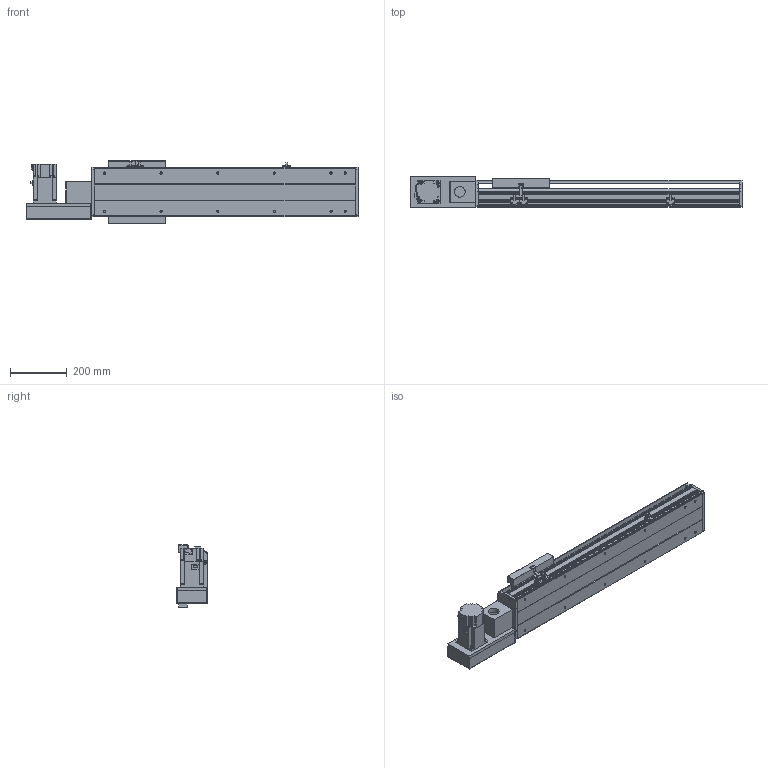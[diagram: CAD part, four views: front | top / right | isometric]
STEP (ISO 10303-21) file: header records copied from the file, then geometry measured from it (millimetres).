
FILE_DESCRIPTION(/* description */ ('STEP AP214'),/* implementation_level */ '2;1');
FILE_NAME(/* name */ 'PBS200-P40-S550-L-T75-C1-N(0)',/* time_stamp */ '2022-06-11T07:48:06+02:00',/* author */ ('License CC BY-ND 4.0'),/* organization */ ('CADENAS'),/* preprocessor_version */ 'ST-DEVELOPER v18.102',/* originating_system */ 'PARTsolutions',/* authorisation */ ' ');
FILE_SCHEMA (('AUTOMOTIVE_DESIGN {1 0 10303 214 3 1 1}'));
Length unit declared in the file: millimetre
Products named in the file (7): PBS200-P40-S550-L-T75-C1-N(0); PBS200_sensor; PBS200_plant; PBS200_sliser; T75-p1; PBS200T-L_motors; PBS200-S550()_body
Assembly tree (8 placements, depth 2):
  PBS200-P40-S550-L-T75-C1-N(0)
    PBS200_sensor  x3
    PBS200_plant
    PBS200_sliser
    T75-p1
    PBS200T-L_motors
    PBS200-S550()_body
Bounding box: 1172 x 109 x 221 mm (x, y, z)
Volume: 8426883.4 mm3; surface area: 1376747.5 mm2
Topology: 8 solids, 8 shells, 908 faces, 2354 edges, 1536 vertices
Faces by surface type: plane 570, cylinder 294, cone 44
Full cylindrical faces by diameter (mm): 2.459 x6, 3.242 x4, 4.5 x6, 4.917 x4, 5 x6, 6 x7, 6.6 x8, 6.647 x16, 8 x6, 10 x4, 12 x8, 38 x2, 40 x1, 70 x1
Entity records: 24341 total; most frequent: DIRECTION 4279, CARTESIAN_POINT 4156, ORIENTED_EDGE 3958, EDGE_CURVE 1979, AXIS2_PLACEMENT_3D 1483, VERTEX_POINT 1360, LINE 1313, VECTOR 1313
